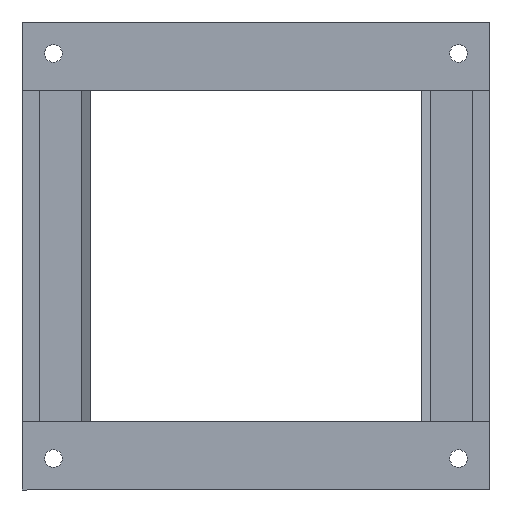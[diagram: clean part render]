
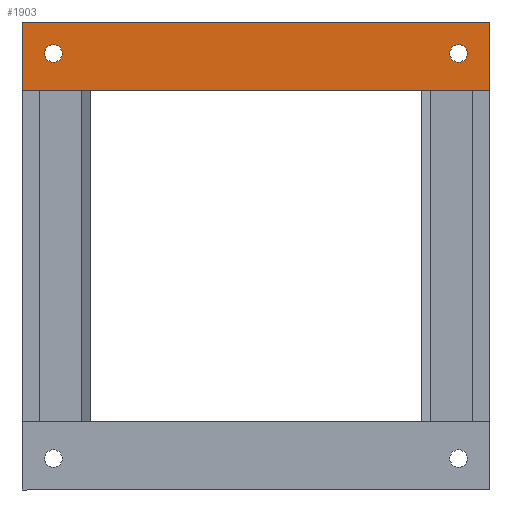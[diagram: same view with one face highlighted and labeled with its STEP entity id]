
A CAD part, front view. The second image highlights one B-rep face of the part: STEP entity #1903.
In plain terms, the highlighted planar face has unit normal (0, -1, 0).
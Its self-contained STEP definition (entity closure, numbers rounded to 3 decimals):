
#114 = LINE ( 'NONE', #115, #116 ) ;
#115 = CARTESIAN_POINT ( 'NONE',  ( 2.5, -6.8, 33.5 ) ) ;
#116 = VECTOR ( 'NONE', #117, 1000. ) ;
#117 = DIRECTION ( 'NONE',  ( 0., 0., -1. ) ) ;
#185 = CIRCLE ( 'NONE', #186, 1.25 ) ;
#186 = AXIS2_PLACEMENT_3D ( 'NONE', #187, #188, #189 ) ;
#187 = CARTESIAN_POINT ( 'NONE',  ( -60., -6.8, 29. ) ) ;
#188 = DIRECTION ( 'NONE',  ( 0., -1., 0. ) ) ;
#189 = DIRECTION ( 'NONE',  ( 1., 0., 0. ) ) ;
#260 = CARTESIAN_POINT ( 'NONE',  ( -64.5, -6.8, 23.7 ) ) ;
#375 = CARTESIAN_POINT ( 'NONE',  ( -64.5, -6.8, 33.5 ) ) ;
#473 = CARTESIAN_POINT ( 'NONE',  ( 2.5, -6.8, 23.7 ) ) ;
#493 = LINE ( 'NONE', #494, #495 ) ;
#494 = CARTESIAN_POINT ( 'NONE',  ( -64.5, -6.8, 33.5 ) ) ;
#495 = VECTOR ( 'NONE', #496, 1000. ) ;
#496 = DIRECTION ( 'NONE',  ( 0., 0., -1. ) ) ;
#522 = CARTESIAN_POINT ( 'NONE',  ( -0.75, -6.8, 29. ) ) ;
#553 = VERTEX_POINT ( 'NONE', #999 ) ;
#585 = LINE ( 'NONE', #586, #587 ) ;
#586 = CARTESIAN_POINT ( 'NONE',  ( 2.5, -6.8, 23.7 ) ) ;
#587 = VECTOR ( 'NONE', #589, 1000. ) ;
#589 = DIRECTION ( 'NONE',  ( -1., 0., 0. ) ) ;
#637 = CIRCLE ( 'NONE', #638, 1.25 ) ;
#638 = AXIS2_PLACEMENT_3D ( 'NONE', #639, #640, #642 ) ;
#639 = CARTESIAN_POINT ( 'NONE',  ( -2., -6.8, 29. ) ) ;
#640 = DIRECTION ( 'NONE',  ( 0., -1., 0. ) ) ;
#642 = DIRECTION ( 'NONE',  ( 1., 0., 0. ) ) ;
#696 = LINE ( 'NONE', #697, #698 ) ;
#697 = CARTESIAN_POINT ( 'NONE',  ( 2.5, -6.8, 33.5 ) ) ;
#698 = VECTOR ( 'NONE', #699, 1000. ) ;
#699 = DIRECTION ( 'NONE',  ( -1., 0., 0. ) ) ;
#743 = ORIENTED_EDGE ( 'NONE', *, *, #1891, .F. ) ;
#748 = FACE_BOUND ( 'NONE', #1892, .T. ) ;
#749 = FACE_OUTER_BOUND ( 'NONE', #1714, .T. ) ;
#750 = FACE_BOUND ( 'NONE', #1593, .T. ) ;
#751 = PLANE ( 'NONE',  #752 ) ;
#752 = AXIS2_PLACEMENT_3D ( 'NONE', #753, #754, #755 ) ;
#753 = CARTESIAN_POINT ( 'NONE',  ( 2.5, -6.8, 33.5 ) ) ;
#754 = DIRECTION ( 'NONE',  ( 0., 1., 0. ) ) ;
#755 = DIRECTION ( 'NONE',  ( -1., 0., 0. ) ) ;
#999 = CARTESIAN_POINT ( 'NONE',  ( -61.25, -6.8, 29. ) ) ;
#1089 = CARTESIAN_POINT ( 'NONE',  ( -58.75, -6.8, 29. ) ) ;
#1149 = CARTESIAN_POINT ( 'NONE',  ( -3.25, -6.8, 29. ) ) ;
#1180 = CARTESIAN_POINT ( 'NONE',  ( 2.5, -6.8, 33.5 ) ) ;
#1225 = CIRCLE ( 'NONE', #1226, 1.25 ) ;
#1226 = AXIS2_PLACEMENT_3D ( 'NONE', #1227, #1228, #1229 ) ;
#1227 = CARTESIAN_POINT ( 'NONE',  ( -60., -6.8, 29. ) ) ;
#1228 = DIRECTION ( 'NONE',  ( 0., -1., 0. ) ) ;
#1229 = DIRECTION ( 'NONE',  ( 1., 0., 0. ) ) ;
#1236 = EDGE_CURVE ( 'NONE', #1873, #1968, #1355, .T. ) ;
#1355 = CIRCLE ( 'NONE', #1356, 1.25 ) ;
#1356 = AXIS2_PLACEMENT_3D ( 'NONE', #1357, #1358, #1359 ) ;
#1357 = CARTESIAN_POINT ( 'NONE',  ( -2., -6.8, 29. ) ) ;
#1358 = DIRECTION ( 'NONE',  ( 0., -1., 0. ) ) ;
#1359 = DIRECTION ( 'NONE',  ( 1., 0., 0. ) ) ;
#1497 = VERTEX_POINT ( 'NONE', #260 ) ;
#1514 = ORIENTED_EDGE ( 'NONE', *, *, #1236, .F. ) ;
#1533 = VERTEX_POINT ( 'NONE', #375 ) ;
#1575 = EDGE_CURVE ( 'NONE', #1533, #1497, #493, .T. ) ;
#1593 = EDGE_LOOP ( 'NONE', ( #1514, #743 ) ) ;
#1625 = ORIENTED_EDGE ( 'NONE', *, *, #1575, .T. ) ;
#1627 = EDGE_CURVE ( 'NONE', #1773, #1533, #696, .T. ) ;
#1684 = ORIENTED_EDGE ( 'NONE', *, *, #1627, .T. ) ;
#1714 = EDGE_LOOP ( 'NONE', ( #1625, #1907, #1828, #1684 ) ) ;
#1740 = ORIENTED_EDGE ( 'NONE', *, *, #1981, .F. ) ;
#1773 = VERTEX_POINT ( 'NONE', #1180 ) ;
#1801 = EDGE_CURVE ( 'NONE', #1773, #1865, #114, .T. ) ;
#1824 = EDGE_CURVE ( 'NONE', #1962, #553, #185, .T. ) ;
#1828 = ORIENTED_EDGE ( 'NONE', *, *, #1801, .F. ) ;
#1851 = ORIENTED_EDGE ( 'NONE', *, *, #1824, .F. ) ;
#1865 = VERTEX_POINT ( 'NONE', #473 ) ;
#1873 = VERTEX_POINT ( 'NONE', #522 ) ;
#1882 = EDGE_CURVE ( 'NONE', #1865, #1497, #585, .T. ) ;
#1891 = EDGE_CURVE ( 'NONE', #1968, #1873, #637, .T. ) ;
#1892 = EDGE_LOOP ( 'NONE', ( #1851, #1740 ) ) ;
#1903 = ADVANCED_FACE ( 'NONE', ( #748, #749, #750 ), #751, .F. ) ;
#1907 = ORIENTED_EDGE ( 'NONE', *, *, #1882, .F. ) ;
#1962 = VERTEX_POINT ( 'NONE', #1089 ) ;
#1968 = VERTEX_POINT ( 'NONE', #1149 ) ;
#1981 = EDGE_CURVE ( 'NONE', #553, #1962, #1225, .T. ) ;
